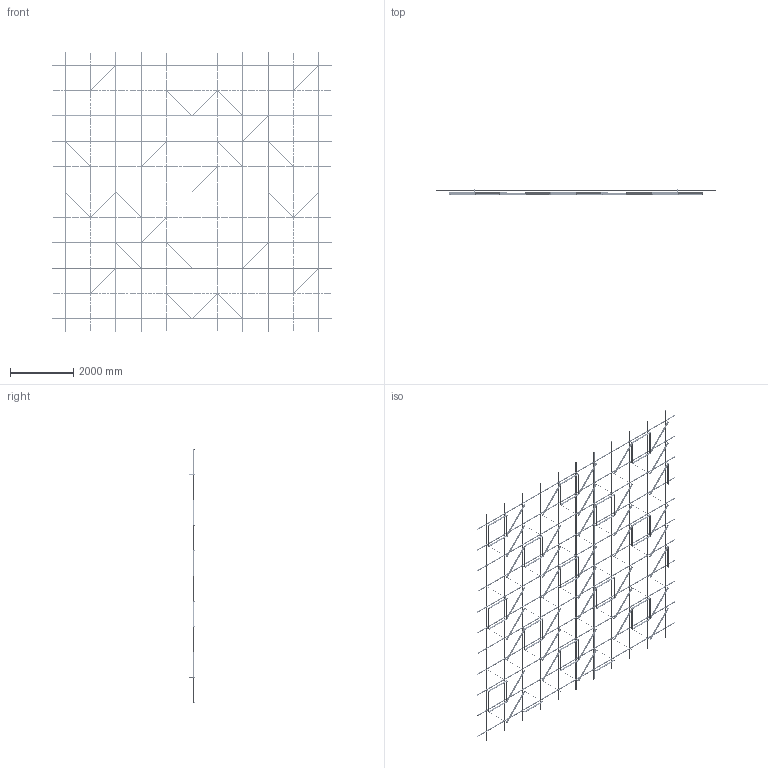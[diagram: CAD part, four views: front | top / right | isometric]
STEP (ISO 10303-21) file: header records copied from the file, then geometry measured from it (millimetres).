
FILE_DESCRIPTION (( 'STEP AP203' ), '1' );
FILE_NAME ('26 ìèíè ñ ïñ.step', '2025-11-25T13:12:47', ( '' ), ( '' ), 'SwSTEP 2.0', 'SolidWorks 2020', '' );
FILE_SCHEMA (( 'CONFIG_CONTROL_DESIGN' ));
Length unit declared in the file: millimetre
Products named in the file (5): Ñèñòåìà â çîíå 8000õ8000; SS.SEMA.2400 - Ñèìà-ïðîôèëü; SS.SEMA.2400 - Ñèìà-ïðîôèëü — îáðåçàí 1600; 26 ìèíè ñ ïñ; 謶鎷ar26
Assembly tree (90 placements, depth 3):
  26 ìèíè ñ ïñ
    Ñèñòåìà â çîíå 8000õ8000
      SS.SEMA.2400 - Ñèìà-ïðîôèëü  x66
      SS.SEMA.2400 - Ñèìà-ïðîôèëü — îáðåçàí 1600  x22
    謶鎷ar26
Bounding box: 8800 x 158 x 8800 mm (x, y, z)
Volume: 72011806.1 mm3; surface area: 43631611.9 mm2
Topology: 679 solids, 679 shells, 19126 faces, 51896 edges, 34128 vertices
Faces by surface type: cylinder 12778, plane 6348
Entity records: 74805 total; most frequent: CARTESIAN_POINT 16508, DIRECTION 11286, ORIENTED_EDGE 10640, AXIS2_PLACEMENT_3D 5394, EDGE_CURVE 5320, VERTEX_POINT 3536, EDGE_LOOP 3132, ADVANCED_FACE 2970
